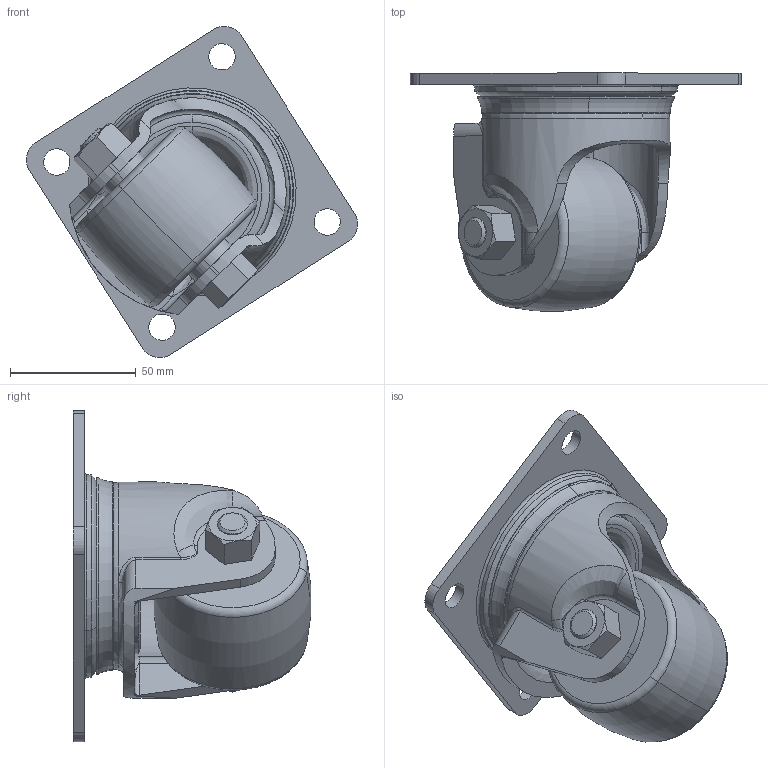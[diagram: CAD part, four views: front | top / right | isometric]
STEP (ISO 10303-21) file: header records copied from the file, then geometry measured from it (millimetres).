
FILE_DESCRIPTION (( 'STEP AP203' ), '1' );
FILE_NAME ('YKCKZJ-65-H 2.5.STEP', '2022-08-12T03:21:29', ( 'pc' ), ( 'Microsoft' ), 'SwSTEP 2.0', 'SolidWorks 2014', '' );
FILE_SCHEMA (( 'CONFIG_CONTROL_DESIGN' ));
Length unit declared in the file: millimetre
Products named in the file (9): YKCKZJ-65-H  2.5; 8; 9; 10; 2; 3; 5; 1; 6
Assembly tree (8 placements, depth 2):
  YKCKZJ-65-H  2.5
    2
    3
    5
    1
    6
    8
    9
    10
Bounding box: 131.96 x 94.7 x 131.96 mm (x, y, z)
Volume: 270021.1 mm3; surface area: 88382 mm2
Topology: 8 solids, 8 shells, 258 faces, 580 edges, 354 vertices
Faces by surface type: torus 76, cylinder 70, plane 60, cone 34, bspline 18
Entity records: 10535 total; most frequent: CARTESIAN_POINT 3723, DIRECTION 1342, ORIENTED_EDGE 1160, AXIS2_PLACEMENT_3D 589, EDGE_CURVE 580, VERTEX_POINT 354, CIRCLE 338, EDGE_LOOP 298
